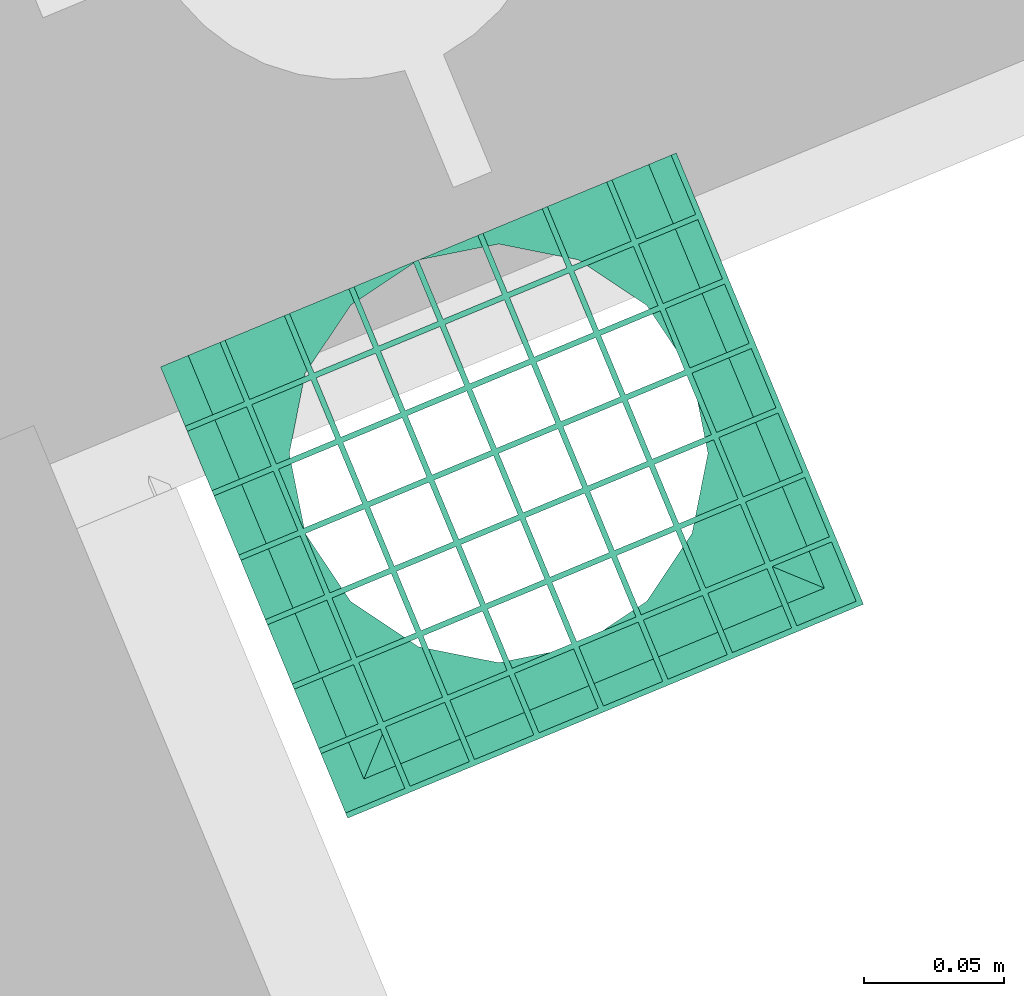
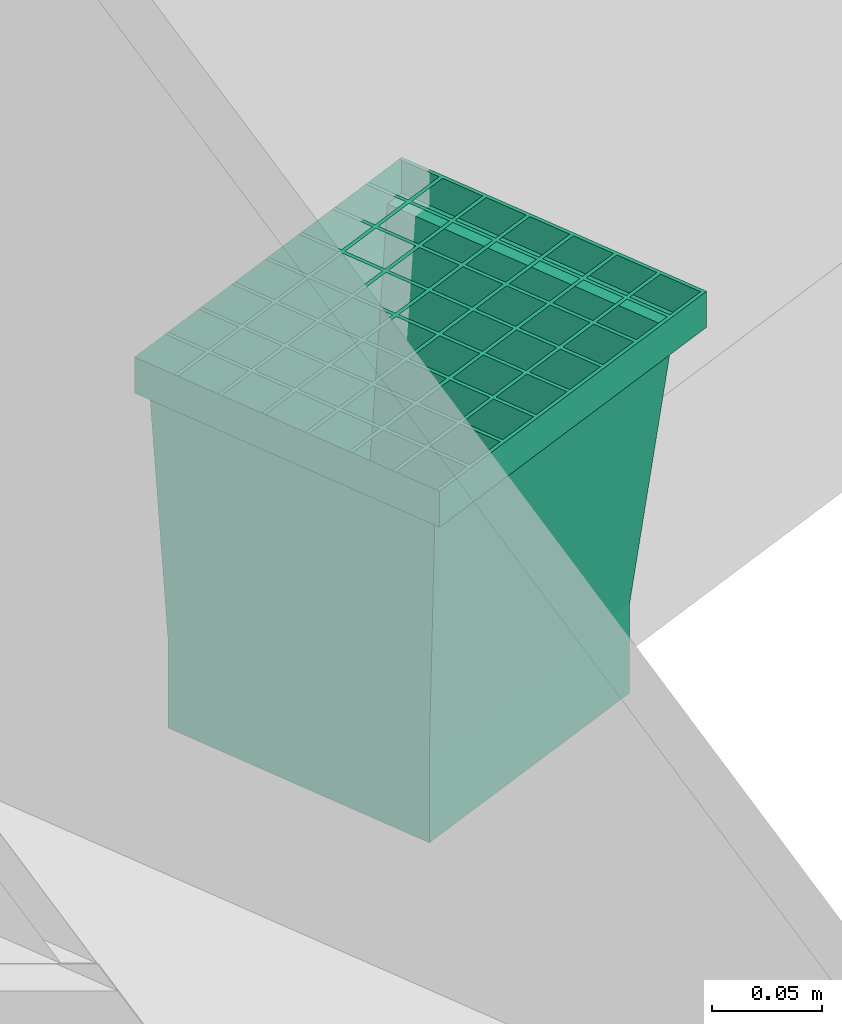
# One storey, part 55 of 62: 1 flow terminal.
"""IFC2X3 building model written with IfcOpenShell, lengths in metres."""

from ifc_helpers import new_model, entity, si_unit, converted_unit, derived_unit, money_unit, direction, frame, origin_with_axes, place, context, subcontext, project, spatial, open_shell, surface_model, type_object, element, save


model = new_model("IFC2X3")

# Units and contexts
model_context = context("Model", 3, precision=1e-05, world=origin_with_axes(), true_north=direction((0.0, 1.0)))
body_context = subcontext(model_context, "Body", "Model", "MODEL_VIEW")
ifc_project = project(units=[si_unit("LENGTHUNIT", "METRE"), si_unit("AREAUNIT", "SQUARE_METRE"), si_unit("VOLUMEUNIT", "CUBIC_METRE"), converted_unit("PLANEANGLEUNIT", "DEGREE", entity("IfcPlaneAngleMeasure", 0.0174532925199), si_unit("PLANEANGLEUNIT", "RADIAN"), dimensions=[0, 0, 0, 0, 0, 0, 0]), si_unit("SOLIDANGLEUNIT", "STERADIAN"), money_unit("EUR"), converted_unit("TIMEUNIT", "Year", entity("IfcTimeMeasure", 31556926.0), si_unit("TIMEUNIT", "SECOND"), dimensions=[0, 0, 1, 0, 0, 0, 0]), si_unit("MASSUNIT", "GRAM", prefix="KILO"), si_unit("THERMODYNAMICTEMPERATUREUNIT", "DEGREE_CELSIUS"), si_unit("LUMINOUSINTENSITYUNIT", "LUMEN"), si_unit("ENERGYUNIT", "JOULE", prefix="MEGA"), derived_unit("THERMALCONDUCTANCEUNIT", [(si_unit("POWERUNIT", "WATT"), 1), (si_unit("LENGTHUNIT", "METRE"), -1), (si_unit("THERMODYNAMICTEMPERATUREUNIT", "KELVIN"), -1)]), derived_unit("SPECIFICHEATCAPACITYUNIT", [(si_unit("ENERGYUNIT", "JOULE"), 1), (si_unit("MASSUNIT", "GRAM", prefix="KILO"), -1), (si_unit("THERMODYNAMICTEMPERATUREUNIT", "KELVIN"), -1)]), derived_unit("MASSDENSITYUNIT", [(si_unit("MASSUNIT", "GRAM", prefix="KILO"), 1), (si_unit("VOLUMEUNIT", "CUBIC_METRE"), -1)])], contexts=[model_context])

# Site, building, storey
site_placement = place(None, origin_with_axes())
site = spatial("IfcSite", under=ifc_project, at=site_placement, Name="Site", CompositionType="ELEMENT")
building_placement = place(site_placement, origin_with_axes())
building = spatial("IfcBuilding", under=site, at=building_placement, Name="Bâtiment", CompositionType="ELEMENT")
storey_placement = place(building_placement, frame((0.0, 0.0, 8.16), z_axis=(0.0, 0.0, 1.0), x_axis=(1.0, 0.0, 0.0)))
storey = spatial("IfcBuildingStorey", under=building, at=storey_placement, Name="R+3", CompositionType="ELEMENT", Elevation=8.16)

# Flow terminal
waste_terminal_type = type_object("IfcWasteTerminalType", Name="Boite à eau 23", PredefinedType="GULLYTRAP")
flow_terminal_placement = place(storey_placement, frame((-14.4656566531, -23.0218732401, 0.00229180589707), z_axis=(0.0, 0.0, 1.0), x_axis=(0.923701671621, 0.383112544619, 0.0)))
element("IfcFlowTerminal", 1, at=flow_terminal_placement, inside=storey, type_object=waste_terminal_type, Name="MOB-005", context=body_context, shape_type="SurfaceModel", body=[
    surface_model("IfcShellBasedSurfaceModel", [(0.1, -0.1, 0.2), (0.1, -0.1, 0.22), (-0.1, -0.1, 0.22), (-0.1, -0.1, 0.2), (0.0892857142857, -0.0892857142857, 0.2), (-0.0892857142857, -0.0892857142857, 0.2), (0.075, -0.075, 0.05), (-0.075, -0.075, 0.05), (0.075, -0.075, 0.0), (-0.075, -0.075, 0.0)], [open_shell([[[0, 1, 2, 3]], [[4, 0, 3, 5]], [[6, 4, 5, 7]], [[8, 6, 7, 9]]])]),
    surface_model("IfcShellBasedSurfaceModel", [(0.1, 0.075, 0.22), (0.1, -0.1, 0.22), (0.1, -0.1, 0.2), (0.1, 0.075, 0.2), (0.0892857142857, -0.0892857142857, 0.2), (0.0892857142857, 0.075, 0.2), (0.075, -0.075, 0.05), (0.075, 0.075, 0.05), (0.075, -0.075, 0.0), (0.075, 0.075, 0.0)], [open_shell([[[0, 1, 2, 3]], [[3, 2, 4, 5]], [[5, 4, 6, 7]], [[7, 6, 8, 9]]])]),
    surface_model("IfcShellBasedSurfaceModel", [(-0.1, 0.075, 0.22), (-0.1, 0.075, 0.2), (-0.1, -0.1, 0.2), (-0.1, -0.1, 0.22), (-0.0892857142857, 0.075, 0.2), (-0.0892857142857, -0.0892857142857, 0.2), (-0.075, 0.075, 0.05), (-0.075, -0.075, 0.05), (-0.075, 0.075, 0.0), (-0.075, -0.075, 0.0)], [open_shell([[[0, 1, 2, 3]], [[1, 4, 5, 2]], [[4, 6, 7, 5]], [[6, 8, 9, 7]]])]),
    surface_model("IfcShellBasedSurfaceModel", [(0.1, 0.075, 0.22), (0.1, 0.075, 0.2), (0.0892857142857, 0.075, 0.2), (0.075, 0.075, 0.05), (0.075, 0.075, 0.0), (0.075, 0.075, 0.22)], [open_shell([[[0, 1, 2, 3, 4, 5]]])]),
    surface_model("IfcShellBasedSurfaceModel", [(-0.1, 0.075, 0.22), (-0.1, 0.075, 0.2), (-0.0892857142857, 0.075, 0.2), (-0.075, 0.075, 0.05), (-0.075, 0.075, 0.0), (-0.075, 0.075, 0.22)], [open_shell([[[0, 1, 2, 3, 4, 5]]])]),
    surface_model("IfcShellBasedSurfaceModel", [(-0.075, 0.075, 0.0), (-0.075, 0.075, 0.22), (0.075, 0.075, 0.22), (0.075, 0.075, 0.0)], [open_shell([[[0, 1, 2, 3]]])]),
    surface_model("IfcShellBasedSurfaceModel", [(0.075, -0.075, 0.0), (-0.075, -0.075, 0.0), (-0.075, 0.075, 0.0), (0.075, 0.075, 0.0), (-0.075, 0.0, 0.0), (-0.0692909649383, -0.0287012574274, 0.0), (-0.053033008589, -0.053033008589, 0.0), (-0.0287012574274, -0.0692909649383, 0.0), (0.0, -0.075, 0.0), (0.0287012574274, -0.0692909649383, 0.0), (0.053033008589, -0.053033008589, 0.0), (0.0692909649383, -0.0287012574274, 0.0), (0.075, 0.0, 0.0), (0.0692909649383, 0.0287012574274, 0.0), (0.053033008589, 0.053033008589, 0.0), (0.0287012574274, 0.0692909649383, 0.0), (0.0, 0.075, 0.0), (-0.0287012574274, 0.0692909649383, 0.0), (-0.053033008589, 0.053033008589, 0.0), (-0.0692909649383, 0.0287012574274, 0.0)], [open_shell([[[0, 1, 2, 3], [4, 5, 6, 7, 8, 9, 10, 11, 12, 13, 14, 15, 16, 17, 18, 19]]])]),
    surface_model("IfcShellBasedSurfaceModel", [(-0.075, -0.1, 0.22), (-0.077, -0.1, 0.22), (-0.077, 0.075, 0.22), (-0.075, 0.075, 0.22)], [open_shell([[[0, 1, 2, 3]]])]),
    surface_model("IfcShellBasedSurfaceModel", [(-0.05, -0.1, 0.22), (-0.052, -0.1, 0.22), (-0.052, 0.075, 0.22), (-0.05, 0.075, 0.22)], [open_shell([[[0, 1, 2, 3]]])]),
    surface_model("IfcShellBasedSurfaceModel", [(-0.025, -0.1, 0.22), (-0.027, -0.1, 0.22), (-0.027, 0.075, 0.22), (-0.025, 0.075, 0.22)], [open_shell([[[0, 1, 2, 3]]])]),
    surface_model("IfcShellBasedSurfaceModel", [(0.0, -0.1, 0.22), (-0.002, -0.1, 0.22), (-0.002, 0.075, 0.22), (0.0, 0.075, 0.22)], [open_shell([[[0, 1, 2, 3]]])]),
    surface_model("IfcShellBasedSurfaceModel", [(0.025, -0.1, 0.22), (0.023, -0.1, 0.22), (0.023, 0.075, 0.22), (0.025, 0.075, 0.22)], [open_shell([[[0, 1, 2, 3]]])]),
    surface_model("IfcShellBasedSurfaceModel", [(0.05, -0.1, 0.22), (0.048, -0.1, 0.22), (0.048, 0.075, 0.22), (0.05, 0.075, 0.22)], [open_shell([[[0, 1, 2, 3]]])]),
    surface_model("IfcShellBasedSurfaceModel", [(0.075, -0.1, 0.22), (0.073, -0.1, 0.22), (0.073, 0.075, 0.22), (0.075, 0.075, 0.22)], [open_shell([[[0, 1, 2, 3]]])]),
    surface_model("IfcShellBasedSurfaceModel", [(0.1, -0.1, 0.22), (0.098, -0.1, 0.22), (0.098, 0.075, 0.22), (0.1, 0.075, 0.22)], [open_shell([[[0, 1, 2, 3]]])]),
    surface_model("IfcShellBasedSurfaceModel", [(-0.1, 0.052, 0.22), (0.1, 0.052, 0.22), (0.1, 0.05, 0.22), (-0.1, 0.05, 0.22)], [open_shell([[[0, 1, 2, 3]]])]),
    surface_model("IfcShellBasedSurfaceModel", [(-0.1, 0.027, 0.22), (0.1, 0.027, 0.22), (0.1, 0.025, 0.22), (-0.1, 0.025, 0.22)], [open_shell([[[0, 1, 2, 3]]])]),
    surface_model("IfcShellBasedSurfaceModel", [(-0.1, 0.002, 0.22), (0.1, 0.002, 0.22), (0.1, 0.0, 0.22), (-0.1, 0.0, 0.22)], [open_shell([[[0, 1, 2, 3]]])]),
    surface_model("IfcShellBasedSurfaceModel", [(-0.1, -0.023, 0.22), (0.1, -0.023, 0.22), (0.1, -0.025, 0.22), (-0.1, -0.025, 0.22)], [open_shell([[[0, 1, 2, 3]]])]),
    surface_model("IfcShellBasedSurfaceModel", [(-0.1, -0.048, 0.22), (0.1, -0.048, 0.22), (0.1, -0.05, 0.22), (-0.1, -0.05, 0.22)], [open_shell([[[0, 1, 2, 3]]])]),
    surface_model("IfcShellBasedSurfaceModel", [(-0.1, -0.073, 0.22), (0.1, -0.073, 0.22), (0.1, -0.075, 0.22), (-0.1, -0.075, 0.22)], [open_shell([[[0, 1, 2, 3]]])]),
    surface_model("IfcShellBasedSurfaceModel", [(-0.1, -0.098, 0.22), (0.1, -0.098, 0.22), (0.1, -0.1, 0.22), (-0.1, -0.1, 0.22)], [open_shell([[[0, 1, 2, 3]]])]),
])

save(model, "model.ifc")
